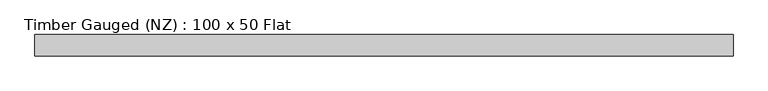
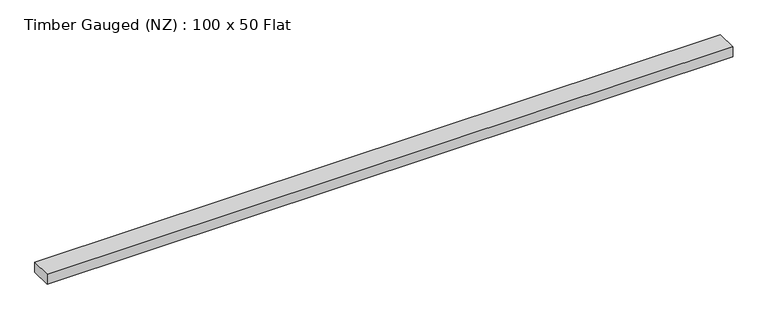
"""IFC4 building model written with IfcOpenShell, lengths in millimetres: beam geometry, Timber Gauged (NZ) : 100 x 50 Flat."""

from ifc_helpers import new_model, si_unit, frame, origin, place, context, project, spatial, polyline, outline, extrude, source, transform, mapped, element, save


def timber_gauged_nz_100_x_50_flat_8016973c(model_context):
    return source(origin(), model_context, "Body", "SweptSolid", [
        extrude(outline(polyline([(1605.5, 47.0), (1605.5, -47.0), (-1464.5, -47.0), (-1464.5, 47.0), (1605.5, 47.0)])), frame((0.0, 0.0, -23.5), z_axis=(0.0, 0.0, 1.0), x_axis=(1.0, 0.0, 0.0)), (0.0, 0.0, 1.0), 47.0),
    ])


if __name__ == "__main__":
    model = new_model("IFC4")
    model_context = context("Model", 3, world=origin())
    ifc_project = project(units=[si_unit("LENGTHUNIT", "METRE", prefix="MILLI")], contexts=[model_context])
    site = spatial("IfcSite", under=ifc_project)
    building = spatial("IfcBuilding", under=site)
    placement = place(None, origin())
    timber_gauged_nz_100_x_50_flat_shape = timber_gauged_nz_100_x_50_flat_8016973c(model_context)
    element("IfcBeam", 1, ObjectType="Timber Gauged (NZ) : 100 x 50 Flat", at=placement, inside=building, context=model_context, shape_type="MappedRepresentation", body=[
        mapped(timber_gauged_nz_100_x_50_flat_shape, transform((0.0, 0.0, 0.0), x_axis=(1.0, 0.0, 0.0), y_axis=(0.0, 1.0, 0.0), z_axis=(0.0, 0.0, 1.0))),
    ])
    save(model, "model.ifc")
